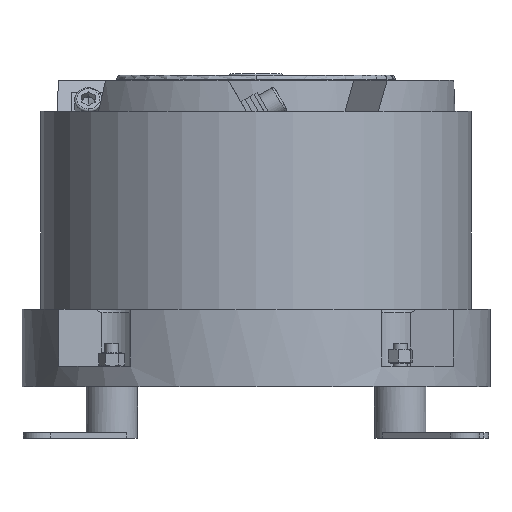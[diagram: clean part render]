
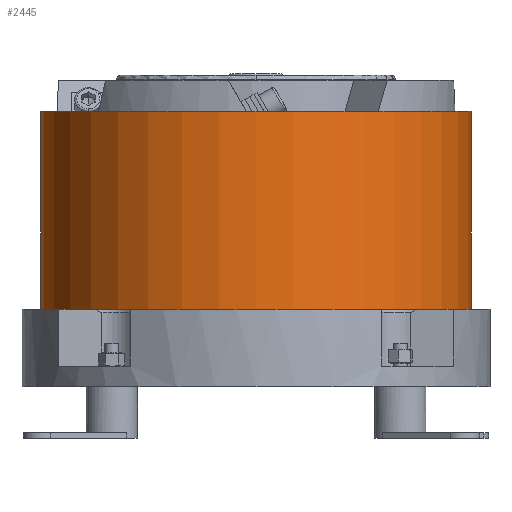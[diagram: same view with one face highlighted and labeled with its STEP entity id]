
A CAD part, front view. The second image highlights one B-rep face of the part: STEP entity #2445.
In plain terms, the highlighted cylindrical face has radius 125 mm (diameter 250 mm), a partial arc.
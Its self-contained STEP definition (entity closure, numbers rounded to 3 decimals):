
#808=CYLINDRICAL_SURFACE('',#9626,125.);
#1222=LINE('',#14118,#1872);
#1223=LINE('',#14123,#1873);
#1872=VECTOR('',#11350,1.);
#1873=VECTOR('',#11353,1.);
#2445=ADVANCED_FACE('NONE',(#3227),#808,.T.);
#3227=FACE_OUTER_BOUND('',#3765,.T.);
#3765=EDGE_LOOP('',(#5131,#5132,#5133,#5134));
#5131=ORIENTED_EDGE('',*,*,#7971,.F.);
#5132=ORIENTED_EDGE('',*,*,#7972,.F.);
#5133=ORIENTED_EDGE('',*,*,#7973,.T.);
#5134=ORIENTED_EDGE('',*,*,#7974,.T.);
#6983=VERTEX_POINT('',#14119);
#6984=VERTEX_POINT('',#14120);
#6985=VERTEX_POINT('',#14122);
#6986=VERTEX_POINT('',#14124);
#7971=EDGE_CURVE('NONE',#6983,#6984,#1222,.T.);
#7972=EDGE_CURVE('NONE',#6985,#6983,#8909,.T.);
#7973=EDGE_CURVE('NONE',#6985,#6986,#1223,.T.);
#7974=EDGE_CURVE('NONE',#6986,#6984,#8910,.T.);
#8909=CIRCLE('',#9624,125.);
#8910=CIRCLE('',#9625,125.);
#9624=AXIS2_PLACEMENT_3D('',#14121,#11351,#11352);
#9625=AXIS2_PLACEMENT_3D('',#14125,#11354,#11355);
#9626=AXIS2_PLACEMENT_3D('',#14126,#11356,#11357);
#11350=DIRECTION('',(0.,0.,-1.));
#11351=DIRECTION('',(0.,0.,1.));
#11352=DIRECTION('',(-1.,0.,0.));
#11353=DIRECTION('',(0.,0.,-1.));
#11354=DIRECTION('',(0.,0.,1.));
#11355=DIRECTION('',(-1.,0.,0.));
#11356=DIRECTION('',(0.,0.,-1.));
#11357=DIRECTION('',(-1.,0.,0.));
#14118=CARTESIAN_POINT('',(20.025,-2.522,71.));
#14119=CARTESIAN_POINT('',(20.025,-2.522,71.));
#14120=CARTESIAN_POINT('',(20.025,-2.522,-44.));
#14121=CARTESIAN_POINT('',(-104.975,-2.522,71.));
#14122=CARTESIAN_POINT('',(-229.975,-2.522,71.));
#14123=CARTESIAN_POINT('',(-229.975,-2.522,71.));
#14124=CARTESIAN_POINT('',(-229.975,-2.522,-44.));
#14125=CARTESIAN_POINT('',(-104.975,-2.522,-44.));
#14126=CARTESIAN_POINT('',(-104.975,-2.522,71.));
